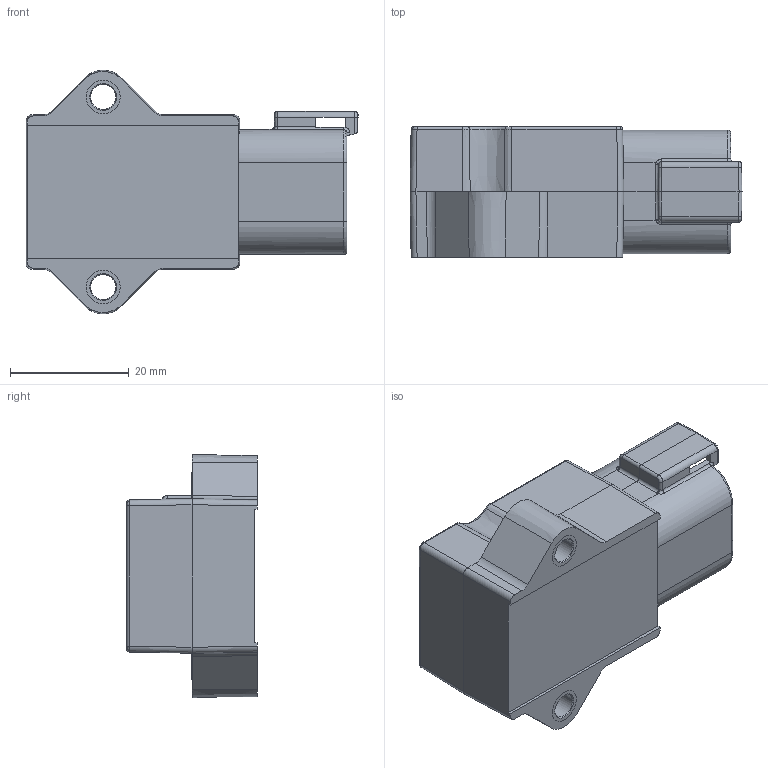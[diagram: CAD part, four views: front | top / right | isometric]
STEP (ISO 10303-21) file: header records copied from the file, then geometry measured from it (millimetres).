
FILE_DESCRIPTION (( 'STEP AP203' ), '1' );
FILE_NAME ('302193_GA6 26.STEP', '2026-09-15T14:07:44', ( '' ), ( '' ), 'SwSTEP 2.0', 'SolidWorks 2025', '' );
FILE_SCHEMA (( 'CONFIG_CONTROL_DESIGN' ));
Length unit declared in the file: millimetre
Products named in the file (1): 302193_GA6 26
Bounding box: 55.9 x 22 x 40.97 mm (x, y, z)
Volume: 22713.6 mm3; surface area: 8161.4 mm2
Topology: 1 solids, 1 shells, 281 faces, 690 edges, 416 vertices
Faces by surface type: plane 91, cylinder 78, cone 50, torus 38, bspline 21, sphere 3
Entity records: 8530 total; most frequent: CARTESIAN_POINT 1983, DIRECTION 1379, ORIENTED_EDGE 1370, EDGE_CURVE 685, AXIS2_PLACEMENT_3D 517, VERTEX_POINT 414, LINE 345, VECTOR 345
